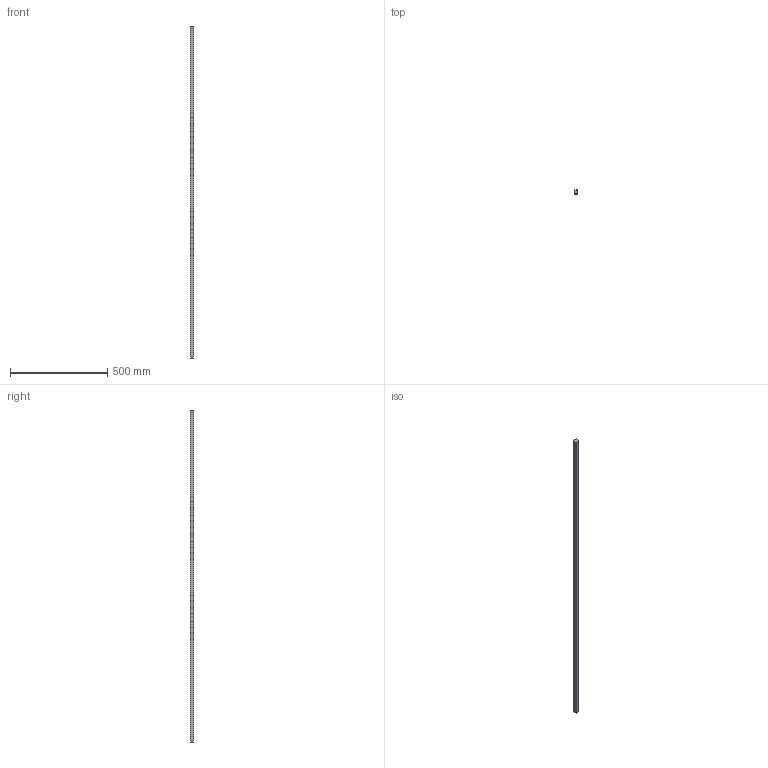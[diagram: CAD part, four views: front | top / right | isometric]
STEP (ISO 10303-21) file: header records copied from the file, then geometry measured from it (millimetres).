
FILE_DESCRIPTION (( 'STEP AP214' ), '1' );
FILE_NAME ('170.STEP', '2018-03-02T14:51:02', ( 'Utente' ), ( '' ), 'SwSTEP 2.0', 'SolidWorks 2016', '' );
FILE_SCHEMA (( 'AUTOMOTIVE_DESIGN' ));
Length unit declared in the file: millimetre
Products named in the file (3): schermo tru sospesaMARTI-1^170; 170; profili - spigoloMARTI-1^170
Assembly tree (2 placements, depth 2):
  170
    profili - spigoloMARTI-1^170
    schermo tru sospesaMARTI-1^170
Bounding box: 20 x 20 x 1710 mm (x, y, z)
Volume: 660402 mm3; surface area: 196947.9 mm2
Topology: 2 solids, 2 shells, 18 faces, 42 edges, 28 vertices
Faces by surface type: plane 18
Entity records: 616 total; most frequent: CARTESIAN_POINT 93, DIRECTION 88, ORIENTED_EDGE 84, LINE 42, VECTOR 42, EDGE_CURVE 42, VERTEX_POINT 28, AXIS2_PLACEMENT_3D 23
